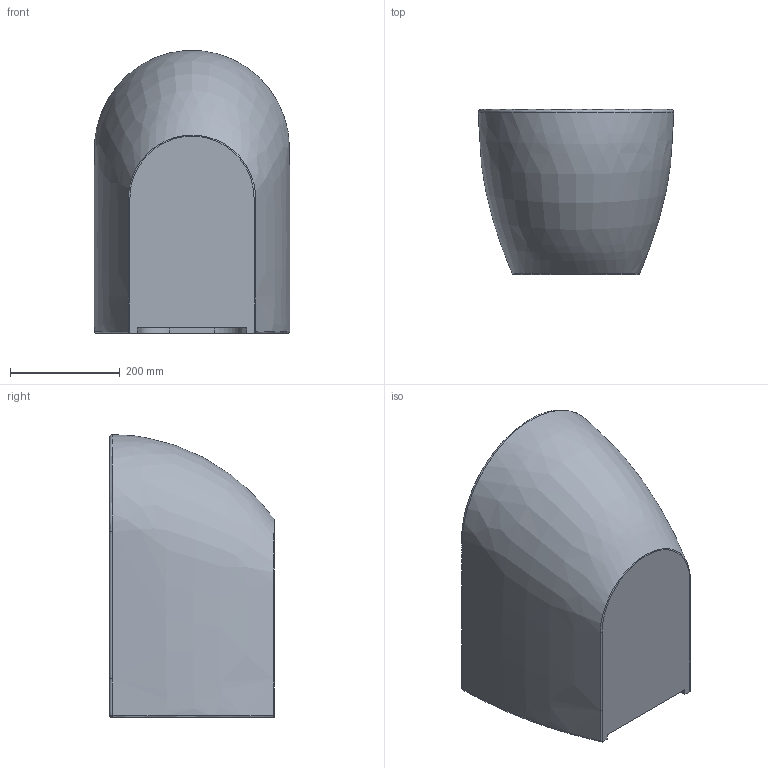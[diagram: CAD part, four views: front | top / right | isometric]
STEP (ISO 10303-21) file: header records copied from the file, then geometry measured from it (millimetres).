
FILE_DESCRIPTION(/* description */ (''),/* implementation_level */ '2;1');
FILE_NAME(/* name */ 'C:\Users\m.cicconi\Desktop\AZZURRA 3D\07 COMODA\SANITARI COMODA\COMODA SANITARI STEP\COM500_SOSP.stp',/* time_stamp */ '2017-12-20T11:27:38+01:00',/* author */ ('m.cicconi'),/* organization */ (''),/* preprocessor_version */ 'ST-DEVELOPER v16.1',/* originating_system */ 'Autodesk Inventor 2016',/* authorisation */ '');
FILE_SCHEMA (('AUTOMOTIVE_DESIGN { 1 0 10303 214 3 1 1 }'));
Length unit declared in the file: metre
Products named in the file (1): COM500_SOSP
Bounding box: 355.13 x 300 x 514.58 mm (x, y, z)
Volume: 32587361.4 mm3; surface area: 778715.5 mm2
Topology: 1 solids, 1 shells, 43 faces, 104 edges, 68 vertices
Faces by surface type: bspline 21, plane 12, cylinder 8, cone 1, torus 1
Full cylindrical faces by diameter (mm): 20 x3, 35 x1, 47 x1
Entity records: 8145 total; most frequent: CARTESIAN_POINT 7295, ORIENTED_EDGE 190, DIRECTION 123, EDGE_CURVE 95, VERTEX_POINT 66, EDGE_LOOP 55, AXIS2_PLACEMENT_3D 53, B_SPLINE_CURVE_WITH_KNOTS 47
